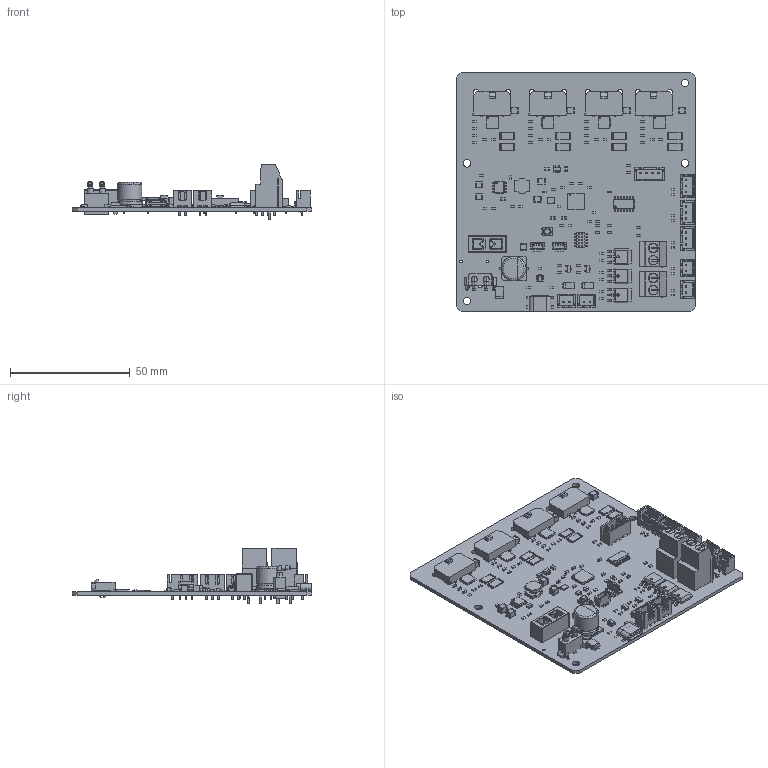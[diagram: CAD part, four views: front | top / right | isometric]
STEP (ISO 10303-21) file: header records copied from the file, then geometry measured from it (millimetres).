
FILE_DESCRIPTION(('KiCad electronic assembly'),'2;1');
FILE_NAME('a1-printcore-populated.step','2026-11-21T11:14:50',('Pcbnew') ,('Kicad'),'Open CASCADE STEP processor 7.6','KiCad to STEP converter' ,'Unknown');
FILE_SCHEMA(('AUTOMOTIVE_DESIGN { 1 0 10303 214 1 1 1 1 }'));
Length unit declared in the file: millimetre
Products named in the file (87): a1-printcore-populated 1; R_0603_1608Metric; CP_Elec_10x10.5; CP_Elec_10x105; LED_0603_1608Metric; C_0603_1608Metric; SOT-23-5; C_0805_2012Metric; SOIC-14_3.9x8.7mm_P1.27mm; JST_XH_B3B-XH-A_1x03_P2.50mm_Vertical; JST_B3B_XH_A; R_2512_6332Metric; JST_SH_BM04B-SRSS-TB_1x04-1MP_P1.00mm_Vertical; C_1210_3225Metric; QFN-48-1EP_7x7mm_P0.5mm_EP5.6x5.6mm; QFN_48_1EP_7x7mm_P05mm_EP56x56mm; XT30PW-M-media; XT30PW-M; A4988SETTR-T_ET_drawing-checked; Open CASCADE STEP translator 8.0 1; D_SMA; JST_XH_B2B-XH-A_1x02_P2.50mm_Vertical; JST_B2B_XH_A; SOT-23-6; SOT-23; Molex_Micro-Fit_3.0_43650-0410_1x04-1MP_P3.00mm_Horizontal; 436500410wbm000_02; JST_XH_B4B-XH-A_1x04_P2.50mm_Vertical; JST_B4B_XH_A; TO-252-3_TabPin2; CQ assembly; 98f8d7e0-9c39-11ed-93f0-dde97e994e83; 98f8d7e1-9c39-11ed-93f0-dde97e994e83; 98f8d7e1-9c39-11ed-93f0-dde97e994e83_part; 98f8d7e2-9c39-11ed-93f0-dde97e994e83; 98f8d7e2-9c39-11ed-93f0-dde97e994e83_part; 98f8d7e3-9c39-11ed-93f0-dde97e994e83; 98f8d7e3-9c39-11ed-93f0-dde97e994e83_part; TerminalBlock_Phoenix_MKDS-3-2-5.08_1x02_P5.08mm_Horizontal; L_Bourns_SRN6045TA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
Assembly tree (201 placements, depth 6):
  a1-printcore-populated 1
    R_0603_1608Metric  x44
      R_0603_1608Metric
    CP_Elec_10x10.5
      CP_Elec_10x105
    LED_0603_1608Metric  x2
      LED_0603_1608Metric
    C_0603_1608Metric  x32
      C_0603_1608Metric
    SOT-23-5
      SOT-23-5
    C_0805_2012Metric  x9
      C_0805_2012Metric
    SOIC-14_3.9x8.7mm_P1.27mm
      SOIC-14_3.9x8.7mm_P1.27mm
    JST_XH_B3B-XH-A_1x03_P2.50mm_Vertical  x3
      JST_B3B_XH_A
    R_2512_6332Metric  x8
      R_2512_6332Metric
    JST_SH_BM04B-SRSS-TB_1x04-1MP_P1.00mm_Vertical  x2
      JST_SH_BM04B-SRSS-TB_1x04-1MP_P1.00mm_Vertical
    C_1210_3225Metric  x9
      C_1210_3225Metric
    QFN-48-1EP_7x7mm_P0.5mm_EP5.6x5.6mm
      QFN_48_1EP_7x7mm_P05mm_EP56x56mm
    XT30PW-M-media
      XT30PW-M
    A4988SETTR-T_ET_drawing-checked  x4
      Open CASCADE STEP translator 8.0 1
    D_SMA  x2
      D_SMA
    JST_XH_B2B-XH-A_1x02_P2.50mm_Vertical  x4
      JST_B2B_XH_A
    SOT-23-6
      SOT-23-6
    SOT-23  x2
      SOT-23
    Molex_Micro-Fit_3.0_43650-0410_1x04-1MP_P3.00mm_Horizontal  x4
      436500410wbm000_02
    JST_XH_B4B-XH-A_1x04_P2.50mm_Vertical
      JST_B4B_XH_A
    TO-252-3_TabPin2  x3
      CQ assembly
        98f8d7e0-9c39-11ed-93f0-dde97e994e83
          98f8d7e1-9c39-11ed-93f0-dde97e994e83
            98f8d7e1-9c39-11ed-93f0-dde97e994e83_part
          98f8d7e2-9c39-11ed-93f0-dde97e994e83
            98f8d7e2-9c39-11ed-93f0-dde97e994e83_part
          98f8d7e3-9c39-11ed-93f0-dde97e994e83
            98f8d7e3-9c39-11ed-93f0-dde97e994e83_part
    TerminalBlock_Phoenix_MKDS-3-2-5.08_1x02_P5.08mm_Horizontal  x2
      TerminalBlock_Phoenix_MKDS-3-2-5.08_1x02_P5.08mm_Horizontal
    L_Bourns_SRN6045TA
      L_Bourns_SRN6045TA
    PinHeader_2x05_P1.27mm_Vertical_SMD
      PinHeader_2x05_P127mm_Vertical_SMD
    LMR36520ADDAR_DDA0008B_drawing-checked
      SOIC-8-1EP_3.9x4.9mm_P1.27mm_EP2.29x3mm
    D_SMB
      D_SMB
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Bounding box: 100 x 100 x 23 mm (x, y, z)
Volume: 24358 mm3; surface area: 37950.5 mm2
Topology: 181 solids, 181 shells, 9007 faces, 23638 edges, 15259 vertices
Faces by surface type: plane 6922, cylinder 1851, bspline 190, cone 28, torus 11, sphere 4, revolution 1
Full cylindrical faces by diameter (mm): 0.4 x1, 0.49 x2, 0.5 x4, 0.65 x2, 0.95 x13, 1 x13, 1.3 x4, 1.78 x4, 1.9 x2, 2.41 x8, 3.2 x4, 3.8 x4, 4 x4, 10 x2
Entity records: 130380 total; most frequent: CARTESIAN_POINT 21321, ORIENTED_EDGE 18744, DIRECTION 17713, EDGE_CURVE 9370, LINE 7744, VECTOR 7744, VERTEX_POINT 6000, AXIS2_PLACEMENT_3D 4984
